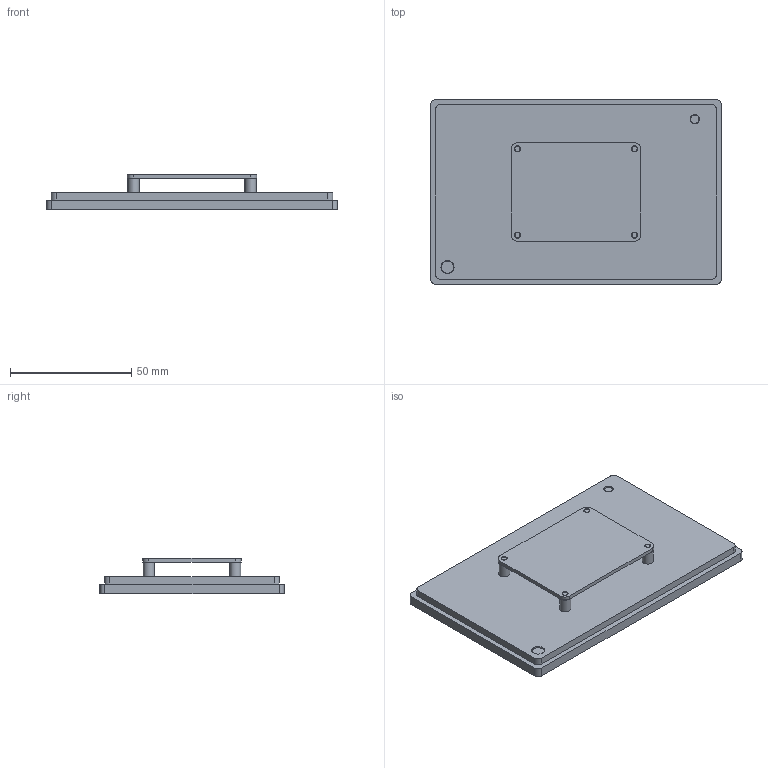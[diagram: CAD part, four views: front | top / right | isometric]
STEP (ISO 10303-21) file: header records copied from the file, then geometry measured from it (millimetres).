
FILE_DESCRIPTION(('Open CASCADE Model'),'2;1');
FILE_NAME('Open CASCADE Shape Model','2026-11-18T17:24:20',('Author'),( 'Open CASCADE'),'Open CASCADE STEP processor 7.8','Open CASCADE 7.8' ,'Unknown');
FILE_SCHEMA(('AUTOMOTIVE_DESIGN { 1 0 10303 214 1 1 1 1 }'));
Length unit declared in the file: millimetre
Products named in the file (4): d5a95302-e331-11f1-a76a-e454e8535259; dock; carrier; bare_board_reference
Assembly tree (3 placements, depth 2):
  d5a95302-e331-11f1-a76a-e454e8535259
    dock
    carrier
    bare_board_reference
Bounding box: 120 x 76 x 14.6 mm (x, y, z)
Volume: 65328.3 mm3; surface area: 42702.5 mm2
Topology: 3 solids, 3 shells, 56 faces, 120 edges, 80 vertices
Faces by surface type: plane 28, cylinder 28
Full cylindrical faces by diameter (mm): 2.1 x4, 2.5 x4, 3.5 x1, 3.9 x1, 4.6 x4, 5 x1, 5.4 x1
Entity records: 3259 total; most frequent: CARTESIAN_POINT 596, DIRECTION 520, LINE 248, VECTOR 248, ORIENTED_EDGE 240, PCURVE 240, DEFINITIONAL_REPRESENTATION 240, EDGE_CURVE 120
